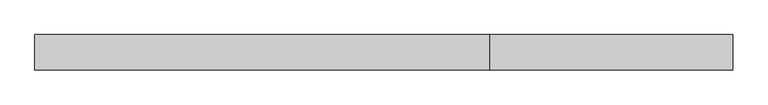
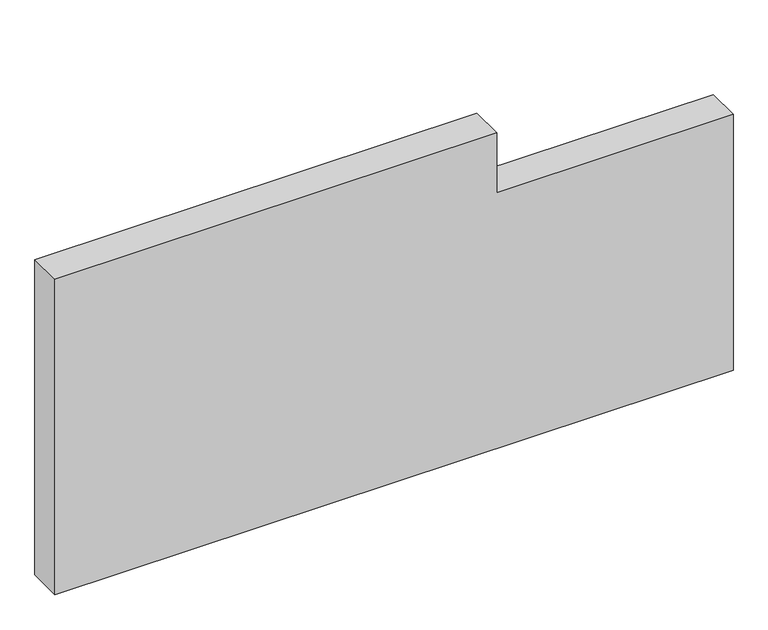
"""IFC4 building model written with IfcOpenShell, lengths in millimetres: plate geometry, Системная панель : Алюкобонд серый."""

from ifc_helpers import new_model, si_unit, frame, origin, place, context, project, spatial, polyline, outline, extrude, source, transform, mapped, element, save


def plate_75859e6b(model_context):
    return source(origin(), model_context, "Body", "SweptSolid", [
        extrude(outline(polyline([(0.0, -590.0), (0.0, 590.0), (470.0088803, 590.0), (470.0088803, 179.0726972), (580.0, 179.0726972), (580.0, -590.0), (0.0, -590.0)])), frame((0.0, -10.5, 0.0), z_axis=(0.0, 1.0, 0.0), x_axis=(0.0, 0.0, 1.0)), (0.0, 0.0, 1.0), 60.0),
    ])


if __name__ == "__main__":
    model = new_model("IFC4")
    model_context = context("Model", 3, world=origin())
    ifc_project = project(units=[si_unit("LENGTHUNIT", "METRE", prefix="MILLI")], contexts=[model_context])
    site = spatial("IfcSite", under=ifc_project)
    building = spatial("IfcBuilding", under=site)
    placement = place(None, origin())
    plate_shape = plate_75859e6b(model_context)
    element("IfcPlate", 1, ObjectType="Системная панель : Алюкобонд серый", at=placement, inside=building, context=model_context, shape_type="MappedRepresentation", body=[
        mapped(plate_shape, transform((0.0, 0.0, 0.0), x_axis=(1.0, 0.0, 0.0), y_axis=(0.0, 1.0, 0.0), z_axis=(0.0, 0.0, 1.0))),
    ])
    save(model, "model.ifc")
